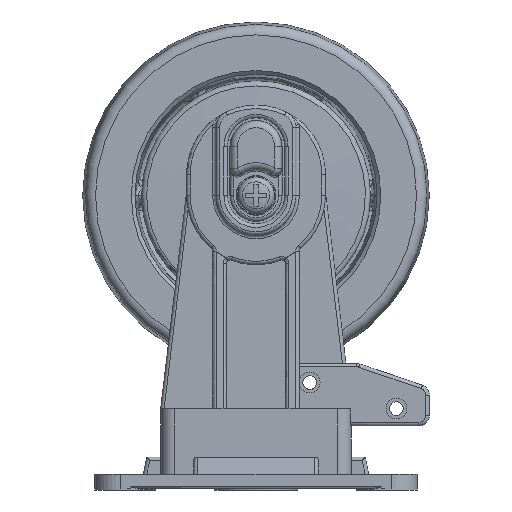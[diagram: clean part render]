
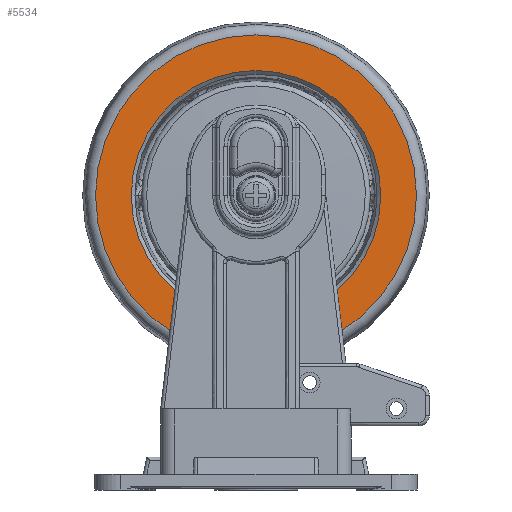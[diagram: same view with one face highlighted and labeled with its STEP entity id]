
A CAD part, front view. The second image highlights one B-rep face of the part: STEP entity #5534.
In plain terms, the highlighted planar face has unit normal (0, -1, 0).
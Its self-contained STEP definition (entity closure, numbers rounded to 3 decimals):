
#828=CARTESIAN_POINT('',(-46.285,-15.,84.5));
#829=VERTEX_POINT('',#828);
#830=CARTESIAN_POINT('',(0.,-15.,84.5));
#831=DIRECTION('',(0.0,1.0,0.0));
#832=DIRECTION('',(1.0,0.0,0.0));
#833=AXIS2_PLACEMENT_3D('',#830,#831,#832);
#834=CIRCLE('',#833,46.285);
#835=EDGE_CURVE('',#829,#829,#834,.T.);
#2861=CARTESIAN_POINT('',(36.,-15.,84.5));
#2862=VERTEX_POINT('',#2861);
#2863=CARTESIAN_POINT('',(0.,-15.,84.5));
#2864=DIRECTION('',(0.0,-1.0,0.0));
#2865=DIRECTION('',(1.0,0.0,0.0));
#2866=AXIS2_PLACEMENT_3D('',#2863,#2864,#2865);
#2867=CIRCLE('',#2866,36.);
#2868=EDGE_CURVE('',#2862,#2862,#2867,.T.);
#5523=CARTESIAN_POINT('',(43.45,-15.,41.05));
#5524=DIRECTION('',(0.0,-1.0,0.0));
#5525=DIRECTION('',(0.0,0.0,1.0));
#5526=AXIS2_PLACEMENT_3D('',#5523,#5524,#5525);
#5527=PLANE('',#5526);
#5528=ORIENTED_EDGE('',*,*,#835,.F.);
#5529=EDGE_LOOP('',(#5528));
#5530=FACE_OUTER_BOUND('',#5529,.T.);
#5531=ORIENTED_EDGE('',*,*,#2868,.F.);
#5532=EDGE_LOOP('',(#5531));
#5533=FACE_BOUND('',#5532,.T.);
#5534=ADVANCED_FACE('',(#5530,#5533),#5527,.T.);
